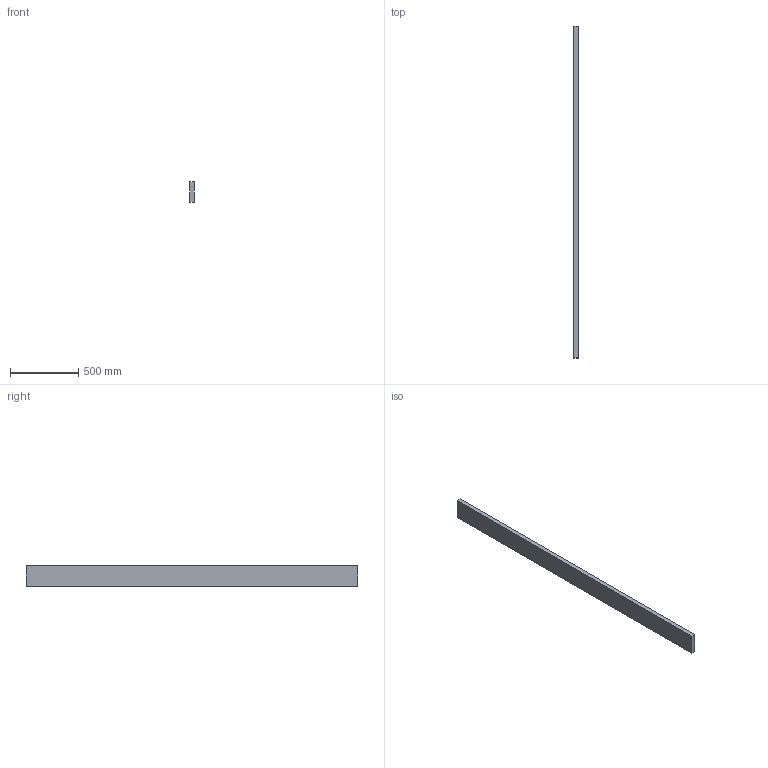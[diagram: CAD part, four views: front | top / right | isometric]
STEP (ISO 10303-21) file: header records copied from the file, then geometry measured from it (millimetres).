
FILE_DESCRIPTION(/* description */ (''),/* implementation_level */ '2;1');
FILE_NAME(/* name */ 'SM_Baffle1.2x6x96',/* time_stamp */ '2024-10-15T11:56:43-05:00',/* author */ (''),/* organization */ (''),/* preprocessor_version */ 'ST-DEVELOPER v19.2',/* originating_system */ 'Rhino 8.4',/* authorisation */ '');
FILE_SCHEMA (('CONFIG_CONTROL_DESIGN'));
Length unit declared in the file: inch
Products named in the file (1): Document
Bounding box: 30.48 x 2438.4 x 152.4 mm (x, y, z)
Volume: 11326738.6 mm3; surface area: 901159.5 mm2
Topology: 1 solids, 1 shells, 6 faces, 12 edges, 8 vertices
Faces by surface type: plane 6
Entity records: 226 total; most frequent: CARTESIAN_POINT 40, ORIENTED_EDGE 24, EDGE_CURVE 12, B_SPLINE_CURVE_WITH_KNOTS 12, DIRECTION 10, VERTEX_POINT 8, AXIS2_PLACEMENT_3D 8, ORGANIZATION 7
